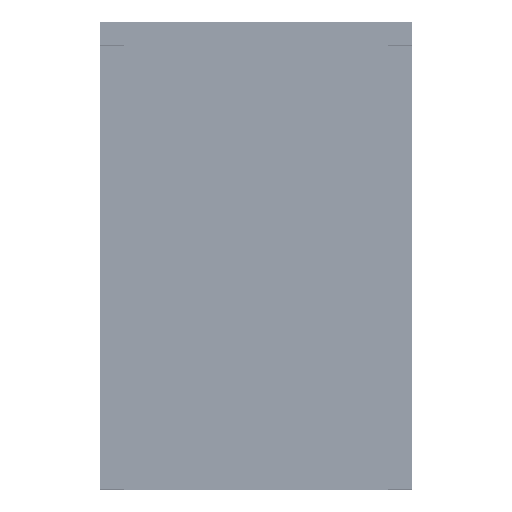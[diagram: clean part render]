
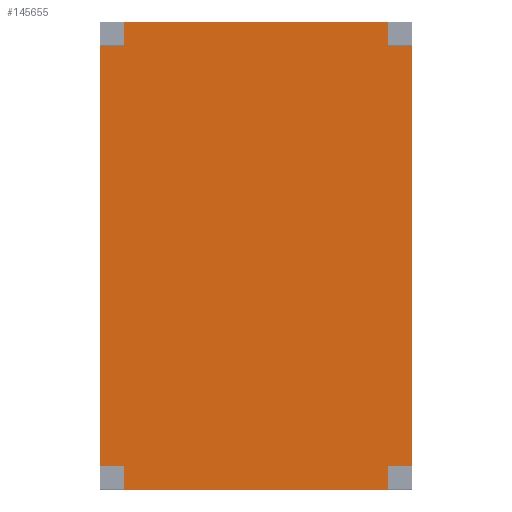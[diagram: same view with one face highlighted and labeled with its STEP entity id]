
A CAD part, top view. The second image highlights one B-rep face of the part: STEP entity #145655.
In plain terms, the highlighted planar face has unit normal (0, 0, 1) as drawn and (0, -1, 0) by its records, which use the part's own axes.
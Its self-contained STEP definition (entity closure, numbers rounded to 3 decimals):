
#14069=FACE_OUTER_BOUND('',#24729,.T.);
#24729=EDGE_LOOP('',(#101818,#101819,#101820,#101821,#101822,#101823,#101824,
#101825,#101826,#101827,#101828,#101829));
#44740=LINE('',#227768,#54961);
#44743=LINE('',#227774,#54964);
#44746=LINE('',#227780,#54967);
#44749=LINE('',#227786,#54970);
#44752=LINE('',#227792,#54973);
#44755=LINE('',#227798,#54976);
#44758=LINE('',#227804,#54979);
#44761=LINE('',#227810,#54982);
#44764=LINE('',#227816,#54985);
#44767=LINE('',#227822,#54988);
#44770=LINE('',#227828,#54991);
#44773=LINE('',#227832,#54994);
#54961=VECTOR('',#181116,10.);
#54964=VECTOR('',#181121,10.);
#54967=VECTOR('',#181126,10.);
#54970=VECTOR('',#181131,10.);
#54973=VECTOR('',#181136,10.);
#54976=VECTOR('',#181141,10.);
#54979=VECTOR('',#181146,10.);
#54982=VECTOR('',#181151,10.);
#54985=VECTOR('',#181156,10.);
#54988=VECTOR('',#181161,10.);
#54991=VECTOR('',#181166,10.);
#54994=VECTOR('',#181171,10.);
#64775=VERTEX_POINT('',#227765);
#64776=VERTEX_POINT('',#227767);
#64778=VERTEX_POINT('',#227773);
#64780=VERTEX_POINT('',#227779);
#64782=VERTEX_POINT('',#227785);
#64784=VERTEX_POINT('',#227791);
#64786=VERTEX_POINT('',#227797);
#64788=VERTEX_POINT('',#227803);
#64790=VERTEX_POINT('',#227809);
#64792=VERTEX_POINT('',#227815);
#64794=VERTEX_POINT('',#227821);
#64796=VERTEX_POINT('',#227827);
#78965=EDGE_CURVE('',#64776,#64775,#44740,.T.);
#78968=EDGE_CURVE('',#64778,#64776,#44743,.T.);
#78971=EDGE_CURVE('',#64780,#64778,#44746,.T.);
#78974=EDGE_CURVE('',#64782,#64780,#44749,.T.);
#78977=EDGE_CURVE('',#64784,#64782,#44752,.T.);
#78980=EDGE_CURVE('',#64786,#64784,#44755,.T.);
#78983=EDGE_CURVE('',#64788,#64786,#44758,.T.);
#78986=EDGE_CURVE('',#64790,#64788,#44761,.T.);
#78989=EDGE_CURVE('',#64792,#64790,#44764,.T.);
#78992=EDGE_CURVE('',#64794,#64792,#44767,.T.);
#78995=EDGE_CURVE('',#64796,#64794,#44770,.T.);
#78998=EDGE_CURVE('',#64775,#64796,#44773,.T.);
#101818=ORIENTED_EDGE('',*,*,#78998,.T.);
#101819=ORIENTED_EDGE('',*,*,#78995,.T.);
#101820=ORIENTED_EDGE('',*,*,#78992,.T.);
#101821=ORIENTED_EDGE('',*,*,#78989,.T.);
#101822=ORIENTED_EDGE('',*,*,#78986,.T.);
#101823=ORIENTED_EDGE('',*,*,#78983,.T.);
#101824=ORIENTED_EDGE('',*,*,#78980,.T.);
#101825=ORIENTED_EDGE('',*,*,#78977,.T.);
#101826=ORIENTED_EDGE('',*,*,#78974,.T.);
#101827=ORIENTED_EDGE('',*,*,#78971,.T.);
#101828=ORIENTED_EDGE('',*,*,#78968,.T.);
#101829=ORIENTED_EDGE('',*,*,#78965,.T.);
#139772=PLANE('',#160205);
#145655=ADVANCED_FACE('',(#14069),#139772,.T.);
#160205=AXIS2_PLACEMENT_3D('',#227833,#181172,#181173);
#181116=DIRECTION('',(1.,0.,0.));
#181121=DIRECTION('',(0.,0.,-1.));
#181126=DIRECTION('',(-1.,0.,0.));
#181131=DIRECTION('',(0.,0.,-1.));
#181136=DIRECTION('',(-1.,0.,0.));
#181141=DIRECTION('',(0.,0.,1.));
#181146=DIRECTION('',(-1.,0.,0.));
#181151=DIRECTION('',(0.,0.,1.));
#181156=DIRECTION('',(1.,0.,0.));
#181161=DIRECTION('',(0.,0.,1.));
#181166=DIRECTION('',(1.,0.,0.));
#181171=DIRECTION('',(0.,0.,-1.));
#181172=DIRECTION('center_axis',(0.,-1.,0.));
#181173=DIRECTION('ref_axis',(0.,0.,-1.));
#227765=CARTESIAN_POINT('',(-270.,-315.,-170.));
#227767=CARTESIAN_POINT('',(-300.,-315.,-170.));
#227768=CARTESIAN_POINT('',(-300.,-315.,-170.));
#227773=CARTESIAN_POINT('',(-300.,-315.,170.));
#227774=CARTESIAN_POINT('',(-300.,-315.,200.));
#227779=CARTESIAN_POINT('',(-270.,-315.,170.));
#227780=CARTESIAN_POINT('',(-270.,-315.,170.));
#227785=CARTESIAN_POINT('',(-270.,-315.,200.));
#227786=CARTESIAN_POINT('',(-270.,-315.,200.));
#227791=CARTESIAN_POINT('',(270.,-315.,200.));
#227792=CARTESIAN_POINT('',(300.,-315.,200.));
#227797=CARTESIAN_POINT('',(270.,-315.,170.));
#227798=CARTESIAN_POINT('',(270.,-315.,170.));
#227803=CARTESIAN_POINT('',(300.,-315.,170.));
#227804=CARTESIAN_POINT('',(300.,-315.,170.));
#227809=CARTESIAN_POINT('',(300.,-315.,-170.));
#227810=CARTESIAN_POINT('',(300.,-315.,-200.));
#227815=CARTESIAN_POINT('',(270.,-315.,-170.));
#227816=CARTESIAN_POINT('',(270.,-315.,-170.));
#227821=CARTESIAN_POINT('',(270.,-315.,-200.));
#227822=CARTESIAN_POINT('',(270.,-315.,-200.));
#227827=CARTESIAN_POINT('',(-270.,-315.,-200.));
#227828=CARTESIAN_POINT('',(-300.,-315.,-200.));
#227832=CARTESIAN_POINT('',(-270.,-315.,-170.));
#227833=CARTESIAN_POINT('Origin',(0.,-315.,0.));
